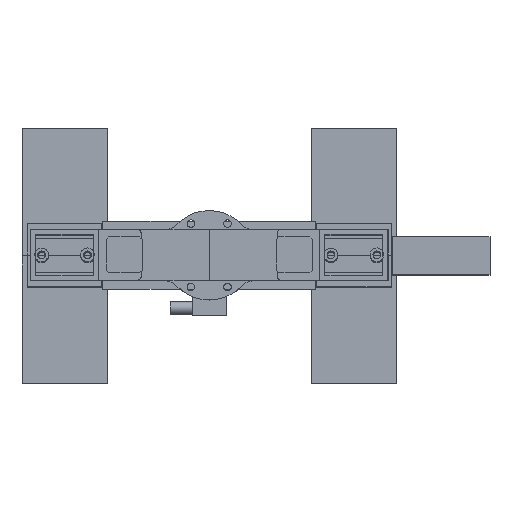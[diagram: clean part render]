
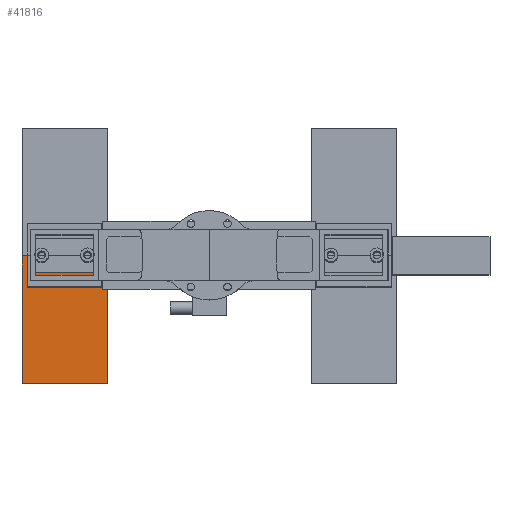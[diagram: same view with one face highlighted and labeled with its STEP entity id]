
A CAD part, top view. The second image highlights one B-rep face of the part: STEP entity #41816.
In plain terms, the highlighted planar face has unit normal (0, 0, 1).
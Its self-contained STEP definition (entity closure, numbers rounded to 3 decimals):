
#41602 = VERTEX_POINT('',#41603);
#41603 = CARTESIAN_POINT('',(-220.,-150.,60.));
#41609 = EDGE_CURVE('',#41602,#41610,#41612,.T.);
#41610 = VERTEX_POINT('',#41611);
#41611 = CARTESIAN_POINT('',(-120.,-150.,60.));
#41612 = LINE('',#41613,#41614);
#41613 = CARTESIAN_POINT('',(-220.,-150.,60.));
#41614 = VECTOR('',#41615,1.);
#41615 = DIRECTION('',(1.,0.,-0.));
#41670 = VERTEX_POINT('',#41671);
#41671 = CARTESIAN_POINT('',(-220.,0.,60.));
#41677 = EDGE_CURVE('',#41602,#41670,#41678,.T.);
#41678 = LINE('',#41679,#41680);
#41679 = CARTESIAN_POINT('',(-220.,-150.,60.));
#41680 = VECTOR('',#41681,1.);
#41681 = DIRECTION('',(-0.,1.,0.));
#41799 = VERTEX_POINT('',#41800);
#41800 = CARTESIAN_POINT('',(-120.,0.,60.));
#41806 = EDGE_CURVE('',#41610,#41799,#41807,.T.);
#41807 = LINE('',#41808,#41809);
#41808 = CARTESIAN_POINT('',(-120.,-150.,60.));
#41809 = VECTOR('',#41810,1.);
#41810 = DIRECTION('',(-0.,1.,0.));
#41816 = ADVANCED_FACE('',(#41817),#41860,.T.);
#41817 = FACE_BOUND('',#41818,.T.);
#41818 = EDGE_LOOP('',(#41819,#41827,#41828,#41829,#41830,#41838,#41846,
    #41854));
#41819 = ORIENTED_EDGE('',*,*,#41820,.F.);
#41820 = EDGE_CURVE('',#41670,#41821,#41823,.T.);
#41821 = VERTEX_POINT('',#41822);
#41822 = CARTESIAN_POINT('',(-210.,0.,60.));
#41823 = LINE('',#41824,#41825);
#41824 = CARTESIAN_POINT('',(-220.,0.,60.));
#41825 = VECTOR('',#41826,1.);
#41826 = DIRECTION('',(1.,0.,-0.));
#41827 = ORIENTED_EDGE('',*,*,#41677,.F.);
#41828 = ORIENTED_EDGE('',*,*,#41609,.T.);
#41829 = ORIENTED_EDGE('',*,*,#41806,.T.);
#41830 = ORIENTED_EDGE('',*,*,#41831,.F.);
#41831 = EDGE_CURVE('',#41832,#41799,#41834,.T.);
#41832 = VERTEX_POINT('',#41833);
#41833 = CARTESIAN_POINT('',(-130.,0.,60.));
#41834 = LINE('',#41835,#41836);
#41835 = CARTESIAN_POINT('',(-220.,0.,60.));
#41836 = VECTOR('',#41837,1.);
#41837 = DIRECTION('',(1.,0.,-0.));
#41838 = ORIENTED_EDGE('',*,*,#41839,.F.);
#41839 = EDGE_CURVE('',#41840,#41832,#41842,.T.);
#41840 = VERTEX_POINT('',#41841);
#41841 = CARTESIAN_POINT('',(-130.,-20.,60.));
#41842 = LINE('',#41843,#41844);
#41843 = CARTESIAN_POINT('',(-130.,-20.,60.));
#41844 = VECTOR('',#41845,1.);
#41845 = DIRECTION('',(-0.,1.,0.));
#41846 = ORIENTED_EDGE('',*,*,#41847,.F.);
#41847 = EDGE_CURVE('',#41848,#41840,#41850,.T.);
#41848 = VERTEX_POINT('',#41849);
#41849 = CARTESIAN_POINT('',(-210.,-20.,60.));
#41850 = LINE('',#41851,#41852);
#41851 = CARTESIAN_POINT('',(-210.,-20.,60.));
#41852 = VECTOR('',#41853,1.);
#41853 = DIRECTION('',(1.,0.,-0.));
#41854 = ORIENTED_EDGE('',*,*,#41855,.T.);
#41855 = EDGE_CURVE('',#41848,#41821,#41856,.T.);
#41856 = LINE('',#41857,#41858);
#41857 = CARTESIAN_POINT('',(-210.,-20.,60.));
#41858 = VECTOR('',#41859,1.);
#41859 = DIRECTION('',(-0.,1.,0.));
#41860 = PLANE('',#41861);
#41861 = AXIS2_PLACEMENT_3D('',#41862,#41863,#41864);
#41862 = CARTESIAN_POINT('',(-220.,-150.,60.));
#41863 = DIRECTION('',(0.,0.,1.));
#41864 = DIRECTION('',(1.,0.,-0.));
